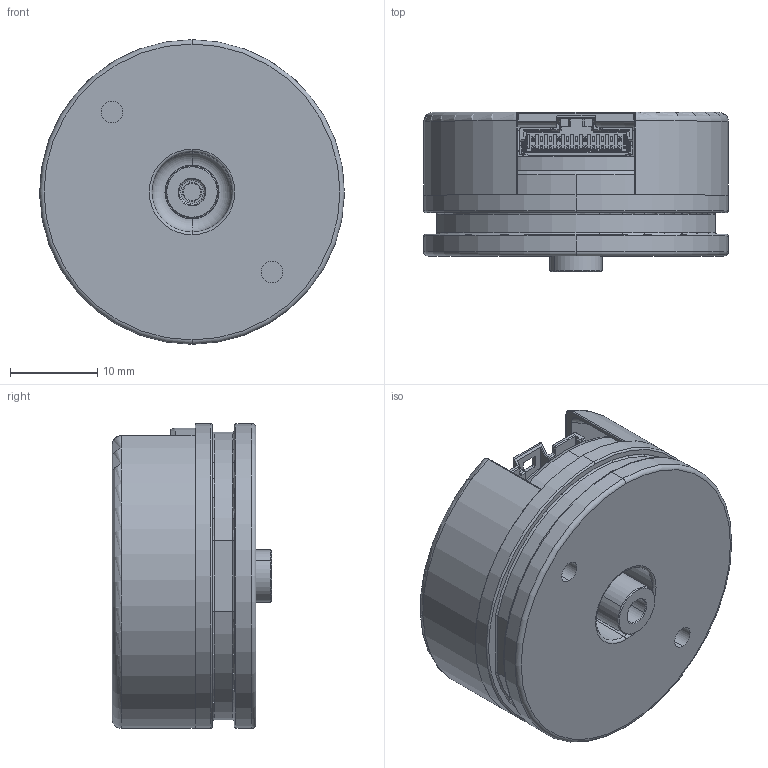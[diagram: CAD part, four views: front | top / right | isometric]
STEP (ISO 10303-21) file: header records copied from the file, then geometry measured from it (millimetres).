
FILE_DESCRIPTION (( 'STEP AP214' ), '1' );
FILE_NAME ('RMC35-subass-01-RMA03A3A07mag-actuator.STEP', '2018-09-19T13:04:24', ( '' ), ( '' ), 'SwSTEP 2.0', 'SolidWorks 2016', '' );
FILE_SCHEMA (( 'AUTOMOTIVE_DESIGN' ));
Length unit declared in the file: millimetre
Products named in the file (6): screwM2x6cros; RMB30U_V22_module; RMC35-subass-01-RMA03A3A07mag-actuator; RMC35-body-casted-01; RMA03A3A07-magnetic-actuator; RMC35-cover-casted-00
Assembly tree (6 placements, depth 2):
  RMC35-subass-01-RMA03A3A07mag-actuator
    RMC35-body-casted-01
    RMC35-cover-casted-00
    screwM2x6cros  x2
    RMA03A3A07-magnetic-actuator
    RMB30U_V22_module
Bounding box: 35 x 18.3 x 35 mm (x, y, z)
Volume: 9757.1 mm3; surface area: 10404.3 mm2
Topology: 63 solids, 63 shells, 2481 faces, 6370 edges, 4076 vertices
Faces by surface type: plane 1902, cylinder 384, cone 133, torus 41, bspline 21
Entity records: 99741 total; most frequent: CARTESIAN_POINT 13700, ORIENTED_EDGE 12574, DIRECTION 11917, EDGE_CURVE 6287, VECTOR 5219, LINE 5219, VERTEX_POINT 4032, AXIS2_PLACEMENT_3D 3349
